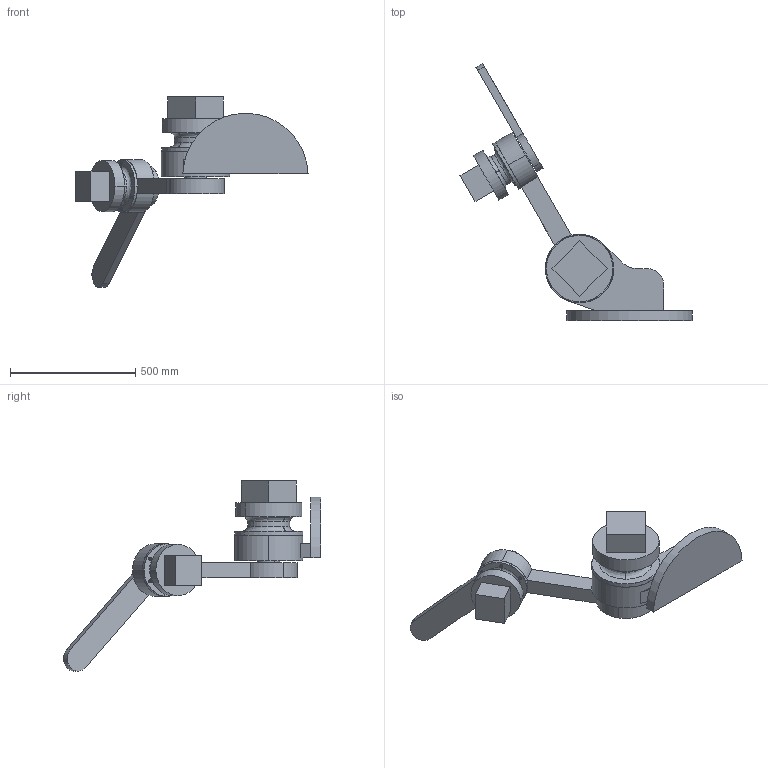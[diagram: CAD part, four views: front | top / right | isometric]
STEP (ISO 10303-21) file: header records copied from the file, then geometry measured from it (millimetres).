
FILE_DESCRIPTION (( 'STEP AP203' ), '1' );
FILE_NAME ('儂迮旋耀倰.STEP', '2022-10-29T09:16:40', ( 'WW' ), ( '' ), 'SwSTEP 2.0', 'SolidWorks 2012', '' );
FILE_SCHEMA (( 'CONFIG_CONTROL_DESIGN' ));
Length unit declared in the file: millimetre
Products named in the file (24): 壽誹2粣杶; 壽誹2覃淕菜え2; 壽誹2覃淕菜え1; 壽誹2粣創; 湮旋; 壽誹1; 壽誹1熬厒儂; 壽儂1粣創覃淕輸; 壽誹1粣杶覃淕菜え; 壽誹1粣杶; 壽誹1覃淕菜え2; 壽誹1覃淕菜え1; 壽誹1粣創; 菁釱; 儂迮旋耀倰; 蹟隊M8X35; 蹟隊M8X30; 蹟隊M6X30; 饜笭; 苤旋; 壽誹2; 壽誹2粣創覃淕菜え; 壽誹2熬厒儂; 壽誹2粣創覃淕輸
Assembly tree (42 placements, depth 3):
  儂迮旋耀倰
    菁釱
    壽誹1
      壽誹1粣創  x2
      壽誹1覃淕菜え1
      壽誹1覃淕菜え2  x2
      壽誹1粣杶
      壽誹1粣杶覃淕菜え
      壽儂1粣創覃淕輸
      壽誹1熬厒儂
    湮旋
    壽誹2
      壽誹2粣創  x2
      壽誹2覃淕菜え1
      壽誹2覃淕菜え2  x2
      壽誹2粣杶
      壽誹2粣創覃淕輸
      壽誹2熬厒儂
      壽誹2粣創覃淕菜え
    苤旋
    饜笭
    蹟隊M6X30  x6
    蹟隊M8X30  x6
    蹟隊M8X35  x6
Bounding box: 926.22 x 1026.32 x 759.26 mm (x, y, z)
Volume: 30955715.6 mm3; surface area: 1958984.6 mm2
Topology: 40 solids, 52 shells, 641 faces, 1378 edges, 844 vertices
Faces by surface type: cylinder 282, plane 163, cone 80, bspline 80, torus 36
Entity records: 16058 total; most frequent: CARTESIAN_POINT 3258, DIRECTION 2274, ORIENTED_EDGE 1796, AXIS2_PLACEMENT_3D 963, EDGE_CURVE 898, VERTEX_POINT 587, EDGE_LOOP 555, CIRCLE 524
